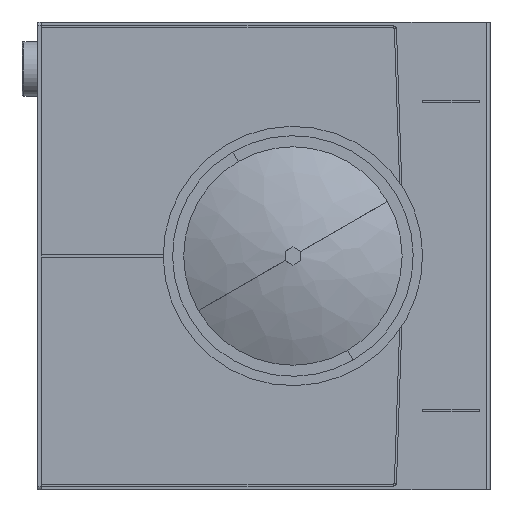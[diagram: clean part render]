
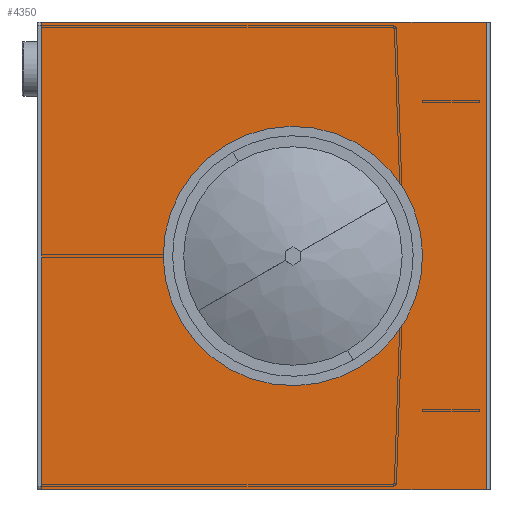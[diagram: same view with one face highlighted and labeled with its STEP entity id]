
A CAD part, left-side view. The second image highlights one B-rep face of the part: STEP entity #4350.
In plain terms, the highlighted planar face has unit normal (-1, 0, 0) as drawn and (1, 0, 0) by its records, which use the part's own axes.
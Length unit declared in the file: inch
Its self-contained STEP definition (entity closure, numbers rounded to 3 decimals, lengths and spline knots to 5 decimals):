
#358 = DIRECTION ( 'NONE',  ( 0., 0., -1. ) ) ;
#850 = EDGE_CURVE ( 'NONE', #1266, #7876, #5877, .T. ) ;
#886 = AXIS2_PLACEMENT_3D ( 'NONE', #7828, #7852, #8578 ) ;
#893 = VERTEX_POINT ( 'NONE', #5464 ) ;
#1183 = CARTESIAN_POINT ( 'NONE',  ( 0., 0., 0. ) ) ;
#1266 = VERTEX_POINT ( 'NONE', #7840 ) ;
#1325 = ORIENTED_EDGE ( 'NONE', *, *, #850, .T. ) ;
#1469 = VECTOR ( 'NONE', #5190, 39.37008 ) ;
#1491 = AXIS2_PLACEMENT_3D ( 'NONE', #1183, #3944, #2499 ) ;
#1663 = DIRECTION ( 'NONE',  ( 0., -1., 0. ) ) ;
#1854 = DIRECTION ( 'NONE',  ( 0., 1., 0. ) ) ;
#1964 = EDGE_LOOP ( 'NONE', ( #2022, #4980 ) ) ;
#2022 = ORIENTED_EDGE ( 'NONE', *, *, #7317, .F. ) ;
#2178 = VECTOR ( 'NONE', #1663, 39.37008 ) ;
#2225 = CARTESIAN_POINT ( 'NONE',  ( 0., 114.5448, 7. ) ) ;
#2227 = EDGE_CURVE ( 'NONE', #8104, #7265, #8883, .T. ) ;
#2499 = DIRECTION ( 'NONE',  ( 0., 0., 1. ) ) ;
#2565 = DIRECTION ( 'NONE',  ( 0., 0., 1. ) ) ;
#2731 = EDGE_CURVE ( 'NONE', #893, #1266, #6424, .T. ) ;
#2900 = LINE ( 'NONE', #3221, #8486 ) ;
#3079 = CARTESIAN_POINT ( 'NONE',  ( 0., 101.9103, 15. ) ) ;
#3221 = CARTESIAN_POINT ( 'NONE',  ( 0., 101.9103, -15. ) ) ;
#3843 = ORIENTED_EDGE ( 'NONE', *, *, #2731, .T. ) ;
#3854 = DIRECTION ( 'NONE',  ( 1., 0., 0. ) ) ;
#3944 = DIRECTION ( 'NONE',  ( -1., 0., 0. ) ) ;
#4350 = ADVANCED_FACE ( 'NONE', ( #5667, #4377 ), #8875, .F. ) ;
#4356 = VECTOR ( 'NONE', #2565, 39.37008 ) ;
#4375 = ORIENTED_EDGE ( 'NONE', *, *, #5966, .T. ) ;
#4377 = FACE_OUTER_BOUND ( 'NONE', #5521, .T. ) ;
#4980 = ORIENTED_EDGE ( 'NONE', *, *, #2227, .F. ) ;
#5190 = DIRECTION ( 'NONE',  ( 0., 0., -1. ) ) ;
#5464 = CARTESIAN_POINT ( 'NONE',  ( 0., 130.6603, -15. ) ) ;
#5521 = EDGE_LOOP ( 'NONE', ( #4375, #8499, #3843, #1325 ) ) ;
#5667 = FACE_BOUND ( 'NONE', #1964, .T. ) ;
#5877 = LINE ( 'NONE', #3079, #2178 ) ;
#5953 = CARTESIAN_POINT ( 'NONE',  ( 0., 114.5448, 0. ) ) ;
#5966 = EDGE_CURVE ( 'NONE', #7876, #8852, #8372, .T. ) ;
#6080 = CARTESIAN_POINT ( 'NONE',  ( 0., 130.6603, 15. ) ) ;
#6424 = LINE ( 'NONE', #6080, #4356 ) ;
#6621 = CARTESIAN_POINT ( 'NONE',  ( 0., 102.1603, 15. ) ) ;
#6789 = CARTESIAN_POINT ( 'NONE',  ( 0., 102.1603, 15. ) ) ;
#6922 = CIRCLE ( 'NONE', #886, 7. ) ;
#7039 = AXIS2_PLACEMENT_3D ( 'NONE', #5953, #3854, #358 ) ;
#7265 = VERTEX_POINT ( 'NONE', #8299 ) ;
#7317 = EDGE_CURVE ( 'NONE', #7265, #8104, #6922, .T. ) ;
#7828 = CARTESIAN_POINT ( 'NONE',  ( 0., 114.5448, 0. ) ) ;
#7840 = CARTESIAN_POINT ( 'NONE',  ( 0., 130.6603, 15. ) ) ;
#7852 = DIRECTION ( 'NONE',  ( 1., 0., 0. ) ) ;
#7876 = VERTEX_POINT ( 'NONE', #6789 ) ;
#8104 = VERTEX_POINT ( 'NONE', #2225 ) ;
#8132 = CARTESIAN_POINT ( 'NONE',  ( 0., 102.1603, -15. ) ) ;
#8299 = CARTESIAN_POINT ( 'NONE',  ( 0., 114.5448, -7. ) ) ;
#8372 = LINE ( 'NONE', #6621, #1469 ) ;
#8486 = VECTOR ( 'NONE', #1854, 39.37008 ) ;
#8499 = ORIENTED_EDGE ( 'NONE', *, *, #8868, .T. ) ;
#8578 = DIRECTION ( 'NONE',  ( 0., 0., -1. ) ) ;
#8852 = VERTEX_POINT ( 'NONE', #8132 ) ;
#8868 = EDGE_CURVE ( 'NONE', #8852, #893, #2900, .T. ) ;
#8875 = PLANE ( 'NONE',  #1491 ) ;
#8883 = CIRCLE ( 'NONE', #7039, 7. ) ;
